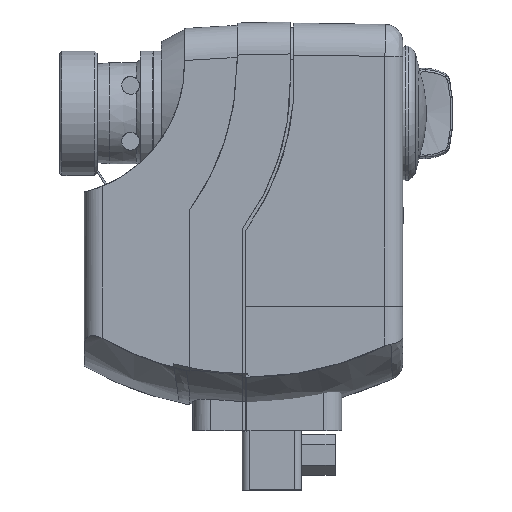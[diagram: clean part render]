
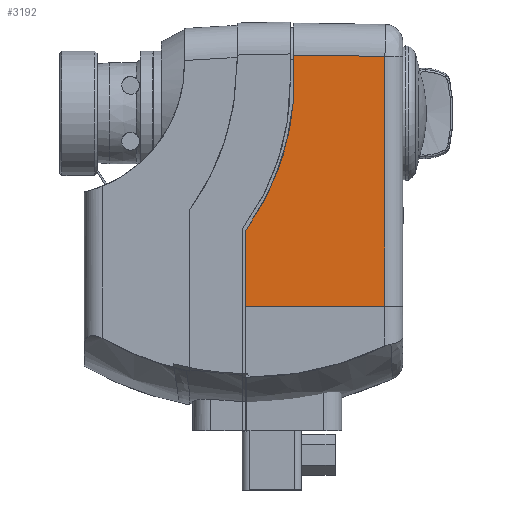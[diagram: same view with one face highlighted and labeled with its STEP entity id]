
A CAD part, left-side view. The second image highlights one B-rep face of the part: STEP entity #3192.
In plain terms, the highlighted planar face has unit normal (1, 0, 0).
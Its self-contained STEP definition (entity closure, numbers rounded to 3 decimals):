
#712=FACE_OUTER_BOUND('',#3764,.T.);
#3192=ADVANCED_FACE('',(#712),#3357,.T.);
#3357=PLANE('',#12613);
#3764=EDGE_LOOP('',(#5518,#5519,#5520,#5521,#5522,#5523));
#5518=ORIENTED_EDGE('',*,*,#9044,.T.);
#5519=ORIENTED_EDGE('',*,*,#9045,.T.);
#5520=ORIENTED_EDGE('',*,*,#9046,.T.);
#5521=ORIENTED_EDGE('',*,*,#9047,.T.);
#5522=ORIENTED_EDGE('',*,*,#9048,.T.);
#5523=ORIENTED_EDGE('',*,*,#9049,.T.);
#7282=VERTEX_POINT('',#23840);
#7283=VERTEX_POINT('',#23841);
#7284=VERTEX_POINT('',#23843);
#7285=VERTEX_POINT('',#23845);
#7286=VERTEX_POINT('',#23852);
#7287=VERTEX_POINT('',#23854);
#9044=EDGE_CURVE('',#7282,#7283,#10643,.T.);
#9045=EDGE_CURVE('',#7283,#7284,#10644,.T.);
#9046=EDGE_CURVE('',#7284,#7285,#10645,.T.);
#9047=EDGE_CURVE('',#7285,#7286,#9794,.T.);
#9048=EDGE_CURVE('',#7286,#7287,#10646,.T.);
#9049=EDGE_CURVE('',#7287,#7282,#9795,.T.);
#9794=B_SPLINE_CURVE_WITH_KNOTS('',3,(#23846,#23847,#23848,#23849,#23850,
#23851),.UNSPECIFIED.,.F.,.F.,(4,2,4),(0.,0.5,1.),.UNSPECIFIED.);
#9795=B_SPLINE_CURVE_WITH_KNOTS('',3,(#23855,#23856,#23857,#23858),.UNSPECIFIED.,
 .F.,.F.,(4,4),(0.,1.),.UNSPECIFIED.);
#10643=LINE('',#23839,#11420);
#10644=LINE('',#23842,#11421);
#10645=LINE('',#23844,#11422);
#10646=LINE('',#23853,#11423);
#11420=VECTOR('',#14394,1.);
#11421=VECTOR('',#14395,1.);
#11422=VECTOR('',#14396,1.);
#11423=VECTOR('',#14397,1.);
#12613=AXIS2_PLACEMENT_3D('',#23859,#14398,#14399);
#14394=DIRECTION('',(0.,0.,-1.));
#14395=DIRECTION('',(0.,1.,0.));
#14396=DIRECTION('',(0.,0.,1.));
#14397=DIRECTION('',(0.,0.,1.));
#14398=DIRECTION('',(1.,0.,0.));
#14399=DIRECTION('',(0.,0.,-1.));
#23839=CARTESIAN_POINT('',(-24.,-91.672,-18.946));
#23840=CARTESIAN_POINT('',(-24.,-91.672,16.053));
#23841=CARTESIAN_POINT('',(-24.,-91.672,-54.328));
#23842=CARTESIAN_POINT('',(-24.,-72.088,-54.328));
#23843=CARTESIAN_POINT('',(-24.,-52.503,-54.328));
#23844=CARTESIAN_POINT('',(-24.,-52.503,-18.946));
#23845=CARTESIAN_POINT('',(-24.,-52.503,-32.946));
#23846=CARTESIAN_POINT('',(-24.,-52.503,-32.946));
#23847=CARTESIAN_POINT('',(-24.,-56.306,-27.625));
#23848=CARTESIAN_POINT('',(-24.,-59.424,-21.738));
#23849=CARTESIAN_POINT('',(-24.,-63.971,-9.288));
#23850=CARTESIAN_POINT('',(-24.,-65.381,-2.765));
#23851=CARTESIAN_POINT('',(-24.,-65.901,3.742));
#23852=CARTESIAN_POINT('',(-24.,-65.901,3.742));
#23853=CARTESIAN_POINT('',(-24.,-65.901,-18.946));
#23854=CARTESIAN_POINT('',(-24.,-65.901,16.435));
#23855=CARTESIAN_POINT('',(-24.,-65.901,16.435));
#23856=CARTESIAN_POINT('',(-24.,-74.492,16.308));
#23857=CARTESIAN_POINT('',(-24.,-83.082,16.181));
#23858=CARTESIAN_POINT('',(-24.,-91.672,16.053));
#23859=CARTESIAN_POINT('',(-24.,-92.456,17.85));
